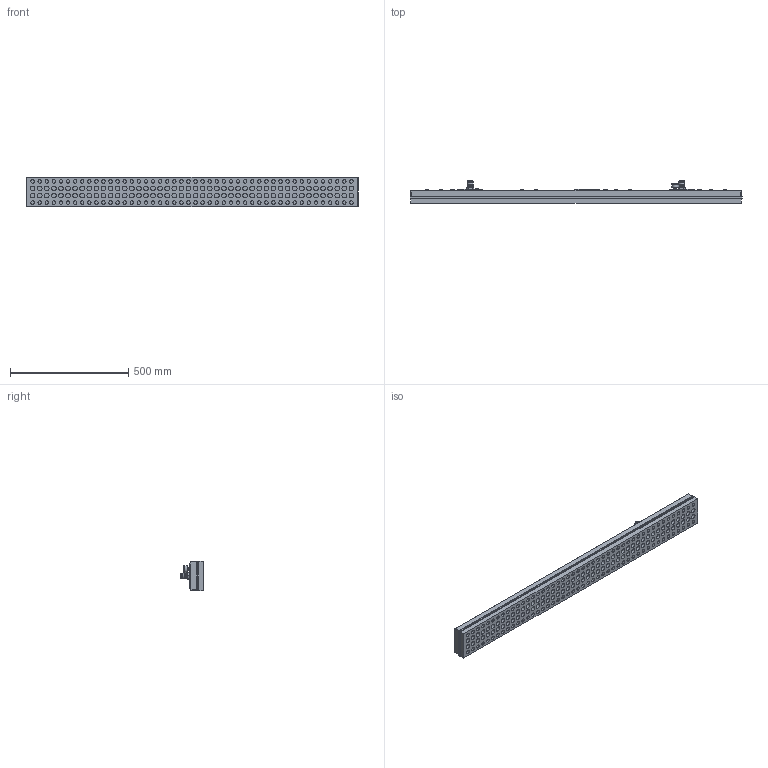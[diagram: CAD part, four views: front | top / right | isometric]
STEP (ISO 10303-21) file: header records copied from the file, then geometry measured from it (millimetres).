
FILE_DESCRIPTION (( 'STEP AP203' ), '1' );
FILE_NAME ('3-9-23868.STEP', '2014-03-12T10:30:16', ( '' ), ( '' ), 'SwSTEP 2.0', 'SolidWorks 2014', '' );
FILE_SCHEMA (( 'CONFIG_CONTROL_DESIGN' ));
Length unit declared in the file: millimetre
Products named in the file (1): 3-9-23868
Bounding box: 1406 x 97.1 x 126 mm (x, y, z)
Volume: 8866607.7 mm3; surface area: 820407.2 mm2
Topology: 1 solids, 1 shells, 695 faces, 1473 edges, 1023 vertices
Faces by surface type: plane 412, cylinder 259, cone 24
Full cylindrical faces by diameter (mm): 6.8 x16, 9.77 x1, 14 x1, 15 x100, 17 x3, 20 x92, 25 x2, 27 x1, 29 x1, 30 x1
Entity records: 16033 total; most frequent: DIRECTION 2940, CARTESIAN_POINT 2714, ORIENTED_EDGE 2028, AXIS2_PLACEMENT_3D 1254, EDGE_LOOP 1180, EDGE_CURVE 1014, FACE_OUTER_BOUND 913, VERTEX_POINT 806
